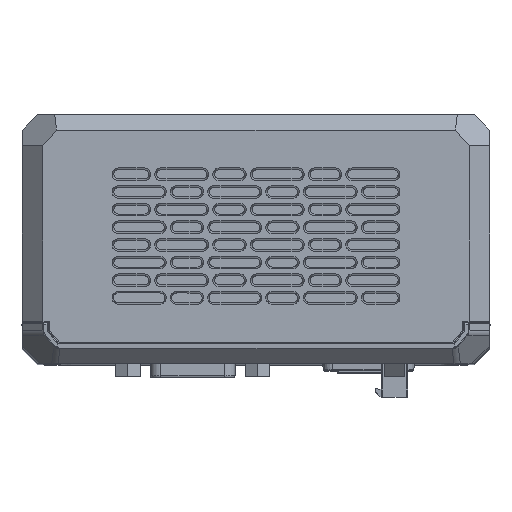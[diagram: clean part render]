
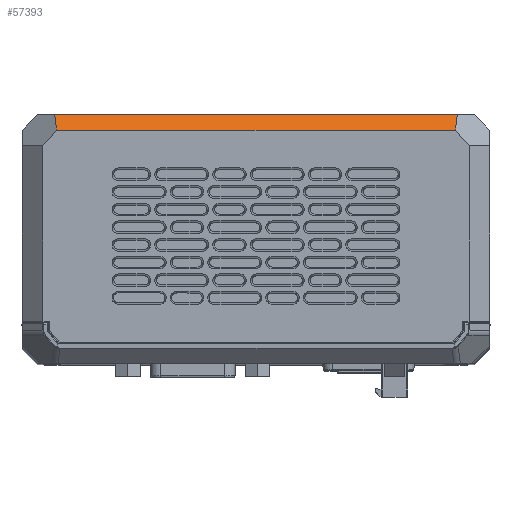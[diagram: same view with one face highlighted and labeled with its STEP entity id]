
A CAD part, top view. The second image highlights one B-rep face of the part: STEP entity #57393.
In plain terms, the highlighted planar face has unit normal (0, 0.707, 0.707).
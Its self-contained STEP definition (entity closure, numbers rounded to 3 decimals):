
#7616=DIRECTION('',(1.,0.,0.));
#7617=VECTOR('',#7616,76.787);
#7618=CARTESIAN_POINT('',(-457.276,29.675,139.501));
#7619=LINE('',#7618,#7617);
#8604=DIRECTION('',(0.085,-0.705,0.705));
#8605=VECTOR('',#8604,4.258);
#8606=CARTESIAN_POINT('',(-457.64,32.675,136.501));
#8607=LINE('',#8606,#8605);
#8924=DIRECTION('',(1.,0.,0.));
#8925=VECTOR('',#8924,77.515);
#8926=CARTESIAN_POINT('',(-457.64,32.675,136.501));
#8927=LINE('',#8926,#8925);
#8928=DIRECTION('',(-0.085,-0.705,0.705));
#8929=VECTOR('',#8928,4.258);
#8930=CARTESIAN_POINT('',(-380.125,32.675,136.501));
#8931=LINE('',#8930,#8929);
#40162=CARTESIAN_POINT('',(-457.276,29.675,
139.501));
#40163=VERTEX_POINT('',#40162);
#40164=CARTESIAN_POINT('',(-380.489,29.675,
139.501));
#40165=VERTEX_POINT('',#40164);
#46529=CARTESIAN_POINT('',(-380.125,32.675,
136.501));
#46530=VERTEX_POINT('',#46529);
#46531=CARTESIAN_POINT('',(-457.64,32.675,
136.501));
#46532=VERTEX_POINT('',#46531);
#57381=CARTESIAN_POINT('',(-457.64,29.675,
139.501));
#57382=DIRECTION('',(0.,0.707,0.707));
#57383=DIRECTION('',(1.,0.,0.));
#57384=AXIS2_PLACEMENT_3D('',#57381,#57382,#57383);
#57385=PLANE('',#57384);
#57386=ORIENTED_EDGE('',*,*,#57100,.F.);
#57388=ORIENTED_EDGE('',*,*,#57387,.T.);
#57389=ORIENTED_EDGE('',*,*,#57370,.T.);
#57390=ORIENTED_EDGE('',*,*,#56390,.F.);
#57391=EDGE_LOOP('',(#57386,#57388,#57389,#57390));
#57392=FACE_OUTER_BOUND('',#57391,.F.);
#57393=ADVANCED_FACE('',(#57392),#57385,.T.);
#56390=EDGE_CURVE('',#40163,#40165,#7619,.T.);
#57100=EDGE_CURVE('',#46532,#40163,#8607,.T.);
#57370=EDGE_CURVE('',#46530,#40165,#8931,.T.);
#57387=EDGE_CURVE('',#46532,#46530,#8927,.T.);
